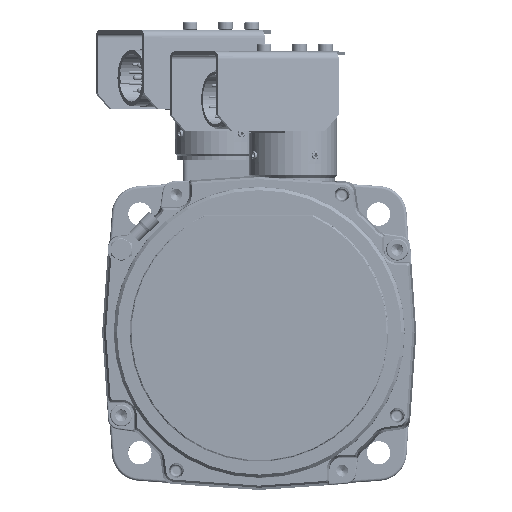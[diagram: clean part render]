
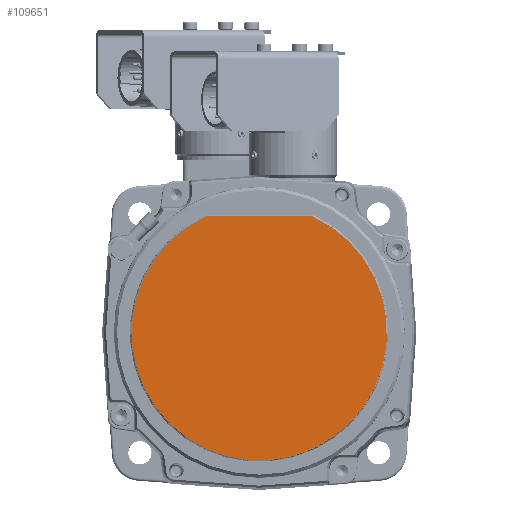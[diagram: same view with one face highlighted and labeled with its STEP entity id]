
A CAD part, top view. The second image highlights one B-rep face of the part: STEP entity #109651.
In plain terms, the highlighted planar face has unit normal (0, 0, 1).
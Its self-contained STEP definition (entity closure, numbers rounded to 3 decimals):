
#102223=CARTESIAN_POINT('',(0.,0.,63.9));
#102224=DIRECTION('',(0.,0.,-1.));
#102225=DIRECTION('',(0.418,0.908,0.));
#102226=AXIS2_PLACEMENT_3D('',#102223,#102224,#102225);
#102235=DIRECTION('',(-1.,0.,0.));
#102236=VECTOR('',#102235,41.125);
#102237=CARTESIAN_POINT('',(20.562,44.7,63.9));
#102238=LINE('',#102237,#102236);
#102899=CARTESIAN_POINT('',(20.562,44.7,63.9));
#102900=CARTESIAN_POINT('',(-20.562,44.7,63.9));
#102901=VERTEX_POINT('',#102899);
#102902=VERTEX_POINT('',#102900);
#109642=CARTESIAN_POINT('',(0.,0.,63.9));
#109643=DIRECTION('',(0.,0.,1.));
#109644=DIRECTION('',(1.,0.,0.));
#109645=AXIS2_PLACEMENT_3D('',#109642,#109643,#109644);
#109646=PLANE('',#109645);
#109647=ORIENTED_EDGE('',*,*,#109621,.T.);
#109648=ORIENTED_EDGE('',*,*,#109633,.F.);
#109649=EDGE_LOOP('',(#109647,#109648));
#109650=FACE_OUTER_BOUND('',#109649,.F.);
#109651=ADVANCED_FACE('',(#109650),#109646,.T.);
#102227=CIRCLE('',#102226,49.203);
#109621=EDGE_CURVE('',#102901,#102902,#102227,.T.);
#109633=EDGE_CURVE('',#102901,#102902,#102238,.T.);
